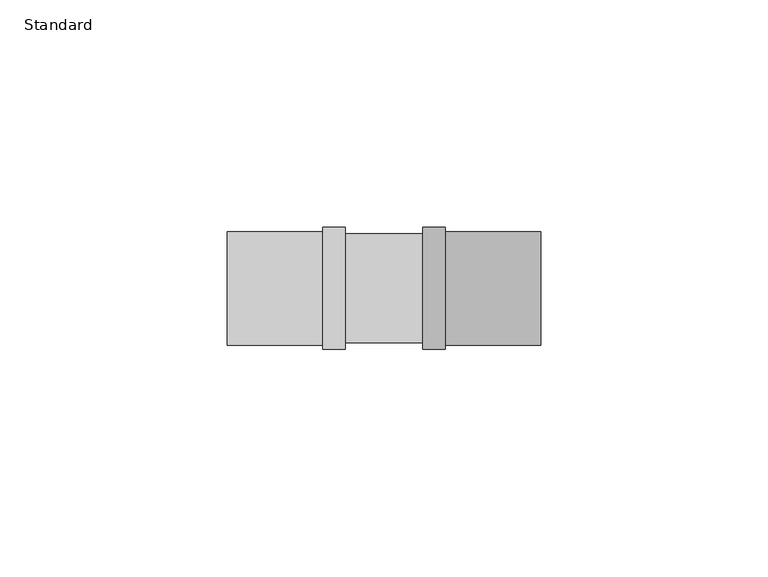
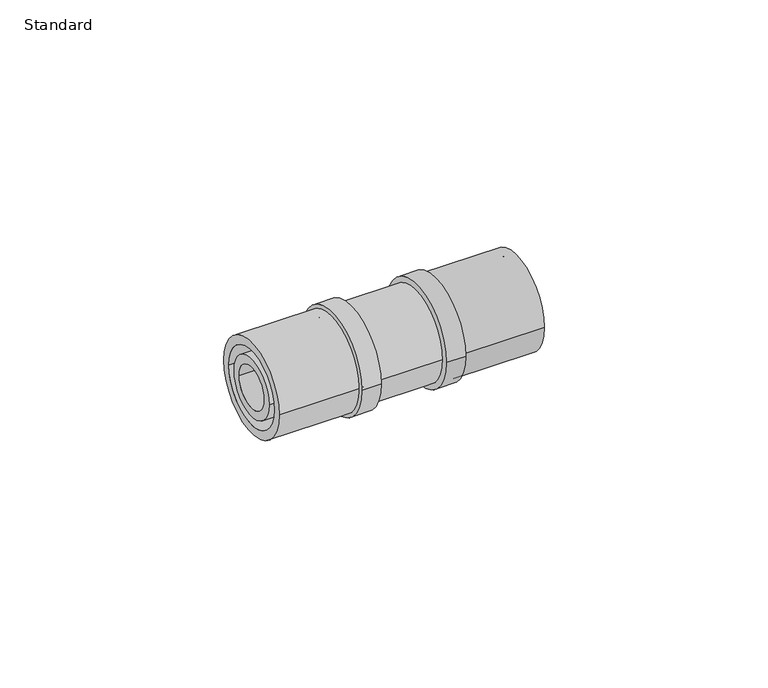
"""IFC4 building model written with IfcOpenShell, lengths in millimetres: pipe fitting geometry, Wavin_PipeFitting_TigrisCouplerMK : Standard."""

from ifc_helpers import new_model, si_unit, point, frame, origin, origin_2d, place, context, project, spatial, circle_curve, trimmed, segment, composite_curve, outline, extrude, source, transform, mapped, element, save


def standard_570630be(model_context):
    return source(origin(), model_context, "Body", "SweptSolid", [
        extrude(outline(composite_curve([segment(trimmed(circle_curve(origin_2d(), 13.45), [point((-13.45, 0.0))], [point((13.45, 0.0))], False, "CARTESIAN"), True, "CONTINUOUS"), segment(trimmed(circle_curve(origin_2d(), 13.45), [point((13.45, 0.0))], [point((-13.45, 0.0))], False, "CARTESIAN"), True, "CONTINUOUS")], self_intersect=False)), frame((8.5, 0.0, 0.0), z_axis=(1.0, 0.0, 0.0), x_axis=(0.0, 1.0, 0.0)), (0.0, 0.0, 1.0), 5.0),
        extrude(outline(composite_curve([segment(trimmed(circle_curve(origin_2d(), 12.5), [point((-12.5, 0.0))], [point((12.5, 0.0))], False, "CARTESIAN"), True, "CONTINUOUS"), segment(trimmed(circle_curve(origin_2d(), 12.5), [point((12.5, 0.0))], [point((-12.5, 0.0))], False, "CARTESIAN"), True, "CONTINUOUS")], self_intersect=False), holes=[composite_curve([segment(trimmed(circle_curve(origin_2d(), 10.2), [point((-10.2, 0.0))], [point((10.2, 0.0))], True, "CARTESIAN"), True, "CONTINUOUS"), segment(trimmed(circle_curve(origin_2d(), 10.2), [point((10.2, 0.0))], [point((-10.2, 0.0))], True, "CARTESIAN"), True, "CONTINUOUS")], self_intersect=False)]), frame((13.5, 0.0, 0.0), z_axis=(1.0, 0.0, 0.0), x_axis=(0.0, 1.0, 0.0)), (0.0, 0.0, 1.0), 21.0),
        extrude(outline(composite_curve([segment(trimmed(circle_curve(origin_2d(), 7.9), [point((-7.9, 0.0))], [point((7.9, 0.0))], False, "CARTESIAN"), True, "CONTINUOUS"), segment(trimmed(circle_curve(origin_2d(), 7.9), [point((7.9, 0.0))], [point((-7.9, 0.0))], False, "CARTESIAN"), True, "CONTINUOUS")], self_intersect=False), holes=[composite_curve([segment(trimmed(circle_curve(origin_2d(), 5.6), [point((-5.6, 0.0))], [point((5.6, 0.0))], True, "CARTESIAN"), True, "CONTINUOUS"), segment(trimmed(circle_curve(origin_2d(), 5.6), [point((5.6, 0.0))], [point((-5.6, 0.0))], True, "CARTESIAN"), True, "CONTINUOUS")], self_intersect=False)]), frame((8.5, 0.0, 0.0), z_axis=(1.0, 0.0, 0.0), x_axis=(0.0, 1.0, 0.0)), (0.0, 0.0, 1.0), 26.0),
        extrude(outline(composite_curve([segment(trimmed(circle_curve(origin_2d(), 13.45), [point((-13.45, 0.0))], [point((13.45, 0.0))], False, "CARTESIAN"), True, "CONTINUOUS"), segment(trimmed(circle_curve(origin_2d(), 13.45), [point((13.45, 0.0))], [point((-13.45, 0.0))], False, "CARTESIAN"), True, "CONTINUOUS")], self_intersect=False)), frame((-13.5, 0.0, 0.0), z_axis=(1.0, 0.0, 0.0), x_axis=(0.0, 1.0, 0.0)), (0.0, 0.0, 1.0), 5.0),
        extrude(outline(composite_curve([segment(trimmed(circle_curve(origin_2d(), 12.5), [point((-12.5, 0.0))], [point((12.5, 0.0))], False, "CARTESIAN"), True, "CONTINUOUS"), segment(trimmed(circle_curve(origin_2d(), 12.5), [point((12.5, 0.0))], [point((-12.5, 0.0))], False, "CARTESIAN"), True, "CONTINUOUS")], self_intersect=False), holes=[composite_curve([segment(trimmed(circle_curve(origin_2d(), 10.2), [point((-10.2, 0.0))], [point((10.2, 0.0))], True, "CARTESIAN"), True, "CONTINUOUS"), segment(trimmed(circle_curve(origin_2d(), 10.2), [point((10.2, 0.0))], [point((-10.2, 0.0))], True, "CARTESIAN"), True, "CONTINUOUS")], self_intersect=False)]), frame((-34.5, 0.0, 0.0), z_axis=(1.0, 0.0, 0.0), x_axis=(0.0, 1.0, 0.0)), (0.0, 0.0, 1.0), 21.0),
        extrude(outline(composite_curve([segment(trimmed(circle_curve(origin_2d(), 7.9), [point((-7.9, 0.0))], [point((7.9, 0.0))], False, "CARTESIAN"), True, "CONTINUOUS"), segment(trimmed(circle_curve(origin_2d(), 7.9), [point((7.9, 0.0))], [point((-7.9, 0.0))], False, "CARTESIAN"), True, "CONTINUOUS")], self_intersect=False), holes=[composite_curve([segment(trimmed(circle_curve(origin_2d(), 5.6), [point((-5.6, 0.0))], [point((5.6, 0.0))], True, "CARTESIAN"), True, "CONTINUOUS"), segment(trimmed(circle_curve(origin_2d(), 5.6), [point((5.6, 0.0))], [point((-5.6, 0.0))], True, "CARTESIAN"), True, "CONTINUOUS")], self_intersect=False)]), frame((-34.5, 0.0, 0.0), z_axis=(1.0, 0.0, 0.0), x_axis=(0.0, 1.0, 0.0)), (0.0, 0.0, 1.0), 26.0),
        extrude(outline(composite_curve([segment(trimmed(circle_curve(origin_2d(), 12.0), [point((-12.0, 0.0))], [point((12.0, 0.0))], False, "CARTESIAN"), True, "CONTINUOUS"), segment(trimmed(circle_curve(origin_2d(), 12.0), [point((12.0, 0.0))], [point((-12.0, 0.0))], False, "CARTESIAN"), True, "CONTINUOUS")], self_intersect=False)), frame((-8.5, 0.0, 0.0), z_axis=(1.0, 0.0, 0.0), x_axis=(0.0, 1.0, 0.0)), (0.0, 0.0, 1.0), 17.0),
    ])


if __name__ == "__main__":
    model = new_model("IFC4")
    model_context = context("Model", 3, world=origin())
    ifc_project = project(units=[si_unit("LENGTHUNIT", "METRE", prefix="MILLI")], contexts=[model_context])
    site = spatial("IfcSite", under=ifc_project)
    building = spatial("IfcBuilding", under=site)
    placement = place(None, origin())
    standard_shape = standard_570630be(model_context)
    element("IfcPipeFitting", 1, ObjectType="Wavin_PipeFitting_TigrisCouplerMK : Standard", at=placement, inside=building, context=model_context, shape_type="MappedRepresentation", body=[
        mapped(standard_shape, transform((0.0, 0.0, 0.0), x_axis=(1.0, 0.0, 0.0), y_axis=(0.0, 1.0, 0.0), z_axis=(0.0, 0.0, 1.0))),
    ])
    save(model, "model.ifc")
